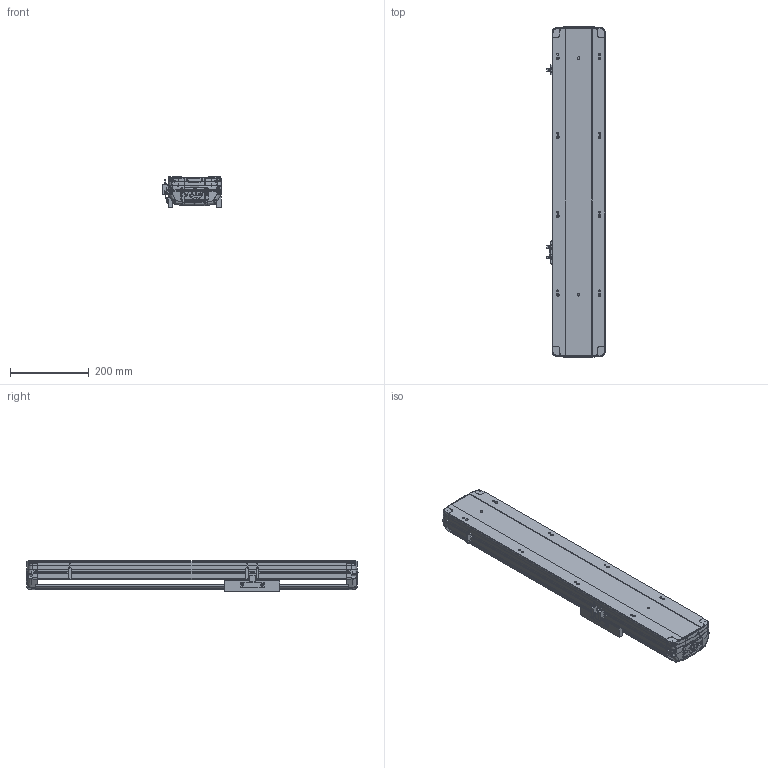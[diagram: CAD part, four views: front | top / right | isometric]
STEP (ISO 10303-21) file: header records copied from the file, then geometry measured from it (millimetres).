
FILE_DESCRIPTION (( 'STEP AP203' ), '1' );
FILE_NAME ('9.STEP', '2020-11-07T02:04:58', ( '' ), ( '' ), 'SwSTEP 2.0', 'SolidWorks 2016', '' );
FILE_SCHEMA (( 'CONFIG_CONTROL_DESIGN' ));
Length unit declared in the file: millimetre
Products named in the file (5): BTH14-M-01; 9; BTH14-M-菁釱; BTH14-M-HZ; BTH14-M-04
Assembly tree (7 placements, depth 2):
  9
    BTH14-M-菁釱
    BTH14-M-01  x2
    BTH14-M-04  x3
    BTH14-M-HZ
Bounding box: 148.7 x 842.04 x 78 mm (x, y, z)
Volume: 3365809.6 mm3; surface area: 799828.1 mm2
Topology: 11 solids, 11 shells, 1701 faces, 4742 edges, 3061 vertices
Faces by surface type: plane 781, bspline 388, cylinder 368, cone 112, torus 52
Entity records: 45279 total; most frequent: CARTESIAN_POINT 19866, ORIENTED_EDGE 5698, DIRECTION 4461, EDGE_CURVE 2849, VERTEX_POINT 1849, AXIS2_PLACEMENT_3D 1498, VECTOR 1465, LINE 1465
